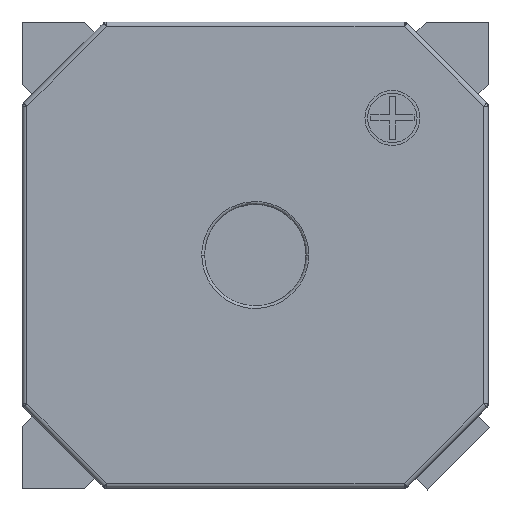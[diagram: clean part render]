
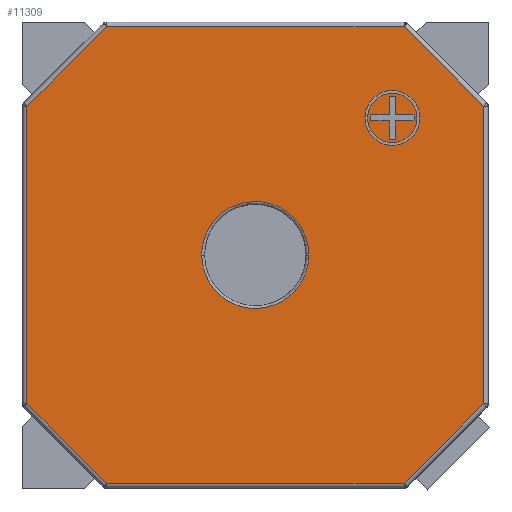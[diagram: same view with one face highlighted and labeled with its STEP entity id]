
A CAD part, top view. The second image highlights one B-rep face of the part: STEP entity #11309.
In plain terms, the highlighted planar face has unit normal (0, 0, 1).
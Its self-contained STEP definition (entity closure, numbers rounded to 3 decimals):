
#471 = ORIENTED_EDGE ( 'NONE', *, *, #8420, .F. ) ;
#494 = CARTESIAN_POINT ( 'NONE',  ( 0., 0., 4.5 ) ) ;
#640 = VECTOR ( 'NONE', #14297, 1000. ) ;
#678 = DIRECTION ( 'NONE',  ( 1., 0., 0. ) ) ;
#820 = VERTEX_POINT ( 'NONE', #12902 ) ;
#869 = DIRECTION ( 'NONE',  ( -0.707, 0.707, 0. ) ) ;
#1334 = VERTEX_POINT ( 'NONE', #3443 ) ;
#1520 = EDGE_CURVE ( 'NONE', #11335, #4686, #10441, .T. ) ;
#1598 = DIRECTION ( 'NONE',  ( 0.707, -0.707, 0. ) ) ;
#1720 = CARTESIAN_POINT ( 'NONE',  ( -4.165, 0., 4.5 ) ) ;
#1735 = DIRECTION ( 'NONE',  ( 0., 1., 0. ) ) ;
#1767 = FACE_BOUND ( 'NONE', #6130, .T. ) ;
#1836 = VERTEX_POINT ( 'NONE', #14082 ) ;
#1863 = ORIENTED_EDGE ( 'NONE', *, *, #8333, .F. ) ;
#2103 = CARTESIAN_POINT ( 'NONE',  ( -0.975, -1.95, 4.5 ) ) ;
#2299 = ORIENTED_EDGE ( 'NONE', *, *, #9404, .F. ) ;
#2309 = LINE ( 'NONE', #1720, #15073 ) ;
#2712 = VECTOR ( 'NONE', #9841, 1000. ) ;
#2816 = ORIENTED_EDGE ( 'NONE', *, *, #9491, .F. ) ;
#3108 = EDGE_CURVE ( 'NONE', #9342, #4923, #13808, .T. ) ;
#3307 = VERTEX_POINT ( 'NONE', #8701 ) ;
#3332 = CARTESIAN_POINT ( 'NONE',  ( 0.975, -1.95, 4.5 ) ) ;
#3443 = CARTESIAN_POINT ( 'NONE',  ( -4.165, -2.715, 4.5 ) ) ;
#3860 = EDGE_CURVE ( 'NONE', #6978, #3307, #14557, .T. ) ;
#4074 = ORIENTED_EDGE ( 'NONE', *, *, #3860, .F. ) ;
#4166 = CARTESIAN_POINT ( 'NONE',  ( 0.975, 0., 4.5 ) ) ;
#4568 = CARTESIAN_POINT ( 'NONE',  ( 0.975, 0.571, 4.5 ) ) ;
#4686 = VERTEX_POINT ( 'NONE', #9417 ) ;
#4694 = CARTESIAN_POINT ( 'NONE',  ( 2.715, 4.165, 4.5 ) ) ;
#4923 = VERTEX_POINT ( 'NONE', #8133 ) ;
#4976 = EDGE_CURVE ( 'NONE', #4923, #1334, #5819, .T. ) ;
#5066 = FACE_OUTER_BOUND ( 'NONE', #8430, .T. ) ;
#5087 = VECTOR ( 'NONE', #1598, 1000. ) ;
#5106 = VERTEX_POINT ( 'NONE', #11108 ) ;
#5789 = CARTESIAN_POINT ( 'NONE',  ( 0.571, 0.975, 4.5 ) ) ;
#5803 = LINE ( 'NONE', #9350, #9071 ) ;
#5817 = CARTESIAN_POINT ( 'NONE',  ( -0.571, 0.975, 4.5 ) ) ;
#5819 = LINE ( 'NONE', #15716, #12002 ) ;
#5912 = DIRECTION ( 'NONE',  ( -0.707, -0.707, 0. ) ) ;
#6130 = EDGE_LOOP ( 'NONE', ( #12722, #471, #2299 ) ) ;
#6418 = ORIENTED_EDGE ( 'NONE', *, *, #3108, .F. ) ;
#6780 = CARTESIAN_POINT ( 'NONE',  ( 0.975, 0., 4.5 ) ) ;
#6978 = VERTEX_POINT ( 'NONE', #4694 ) ;
#6989 = LINE ( 'NONE', #13284, #13552 ) ;
#7047 =( BOUNDED_CURVE ( )  B_SPLINE_CURVE ( 3, ( #10774, #2103, #3332, #12004 ),
 .UNSPECIFIED., .F., .F. ) 
 B_SPLINE_CURVE_WITH_KNOTS ( ( 4, 4 ),
 ( 0.333, 1. ),
 .UNSPECIFIED. ) 
 CURVE ( )  GEOMETRIC_REPRESENTATION_ITEM ( )  RATIONAL_B_SPLINE_CURVE ( ( 1., 0.333, 0.333, 1. ) ) 
 REPRESENTATION_ITEM ( '' )  );
#7974 = CARTESIAN_POINT ( 'NONE',  ( 2.715, -4.165, 4.5 ) ) ;
#8012 = ORIENTED_EDGE ( 'NONE', *, *, #8247, .F. ) ;
#8068 = ORIENTED_EDGE ( 'NONE', *, *, #11618, .F. ) ;
#8133 = CARTESIAN_POINT ( 'NONE',  ( -2.715, -4.165, 4.5 ) ) ;
#8224 = CARTESIAN_POINT ( 'NONE',  ( 0., 0.975, 4.5 ) ) ;
#8237 = VERTEX_POINT ( 'NONE', #9150 ) ;
#8247 = EDGE_CURVE ( 'NONE', #1334, #1836, #2309, .T. ) ;
#8283 = CARTESIAN_POINT ( 'NONE',  ( -0.975, 0., 4.5 ) ) ;
#8333 = EDGE_CURVE ( 'NONE', #8237, #6978, #5803, .T. ) ;
#8420 = EDGE_CURVE ( 'NONE', #820, #11335, #7047, .T. ) ;
#8430 = EDGE_LOOP ( 'NONE', ( #8068, #4074, #1863, #2816, #8012, #12111, #6418, #11646 ) ) ;
#8517 =( BOUNDED_CURVE ( )  B_SPLINE_CURVE ( 3, ( #8224, #5817, #15709, #8283 ),
 .UNSPECIFIED., .F., .F. ) 
 B_SPLINE_CURVE_WITH_KNOTS ( ( 4, 4 ),
 ( 0., 0.333 ),
 .UNSPECIFIED. ) 
 CURVE ( )  GEOMETRIC_REPRESENTATION_ITEM ( )  RATIONAL_B_SPLINE_CURVE ( ( 1., 0.805, 0.805, 1. ) ) 
 REPRESENTATION_ITEM ( '' )  );
#8572 = CARTESIAN_POINT ( 'NONE',  ( 0., 0.975, 4.5 ) ) ;
#8701 = CARTESIAN_POINT ( 'NONE',  ( 4.165, 2.715, 4.5 ) ) ;
#9071 = VECTOR ( 'NONE', #678, 1000. ) ;
#9150 = CARTESIAN_POINT ( 'NONE',  ( -2.715, 4.165, 4.5 ) ) ;
#9155 = DIRECTION ( 'NONE',  ( 0., 0., -1. ) ) ;
#9342 = VERTEX_POINT ( 'NONE', #7974 ) ;
#9350 = CARTESIAN_POINT ( 'NONE',  ( 0., 4.165, 4.5 ) ) ;
#9404 = EDGE_CURVE ( 'NONE', #4686, #820, #8517, .T. ) ;
#9417 = CARTESIAN_POINT ( 'NONE',  ( 0., 0.975, 4.5 ) ) ;
#9491 = EDGE_CURVE ( 'NONE', #1836, #8237, #11945, .T. ) ;
#9841 = DIRECTION ( 'NONE',  ( 0., -1., 0. ) ) ;
#10326 = CARTESIAN_POINT ( 'NONE',  ( 2.715, 4.165, 4.5 ) ) ;
#10356 = PLANE ( 'NONE',  #15149 ) ;
#10441 =( BOUNDED_CURVE ( )  B_SPLINE_CURVE ( 3, ( #4166, #4568, #5789, #8572 ),
 .UNSPECIFIED., .F., .F. ) 
 B_SPLINE_CURVE_WITH_KNOTS ( ( 4, 4 ),
 ( 0., 1. ),
 .UNSPECIFIED. ) 
 CURVE ( )  GEOMETRIC_REPRESENTATION_ITEM ( )  RATIONAL_B_SPLINE_CURVE ( ( 1., 0.805, 0.805, 1. ) ) 
 REPRESENTATION_ITEM ( '' )  );
#10774 = CARTESIAN_POINT ( 'NONE',  ( -0.975, 0., 4.5 ) ) ;
#11108 = CARTESIAN_POINT ( 'NONE',  ( 4.165, -2.715, 4.5 ) ) ;
#11309 = ADVANCED_FACE ( 'NONE', ( #1767, #5066 ), #10356, .F. ) ;
#11335 = VERTEX_POINT ( 'NONE', #6780 ) ;
#11618 = EDGE_CURVE ( 'NONE', #3307, #5106, #12587, .T. ) ;
#11646 = ORIENTED_EDGE ( 'NONE', *, *, #15121, .F. ) ;
#11945 = LINE ( 'NONE', #14970, #14839 ) ;
#12002 = VECTOR ( 'NONE', #869, 1000. ) ;
#12004 = CARTESIAN_POINT ( 'NONE',  ( 0.975, 0., 4.5 ) ) ;
#12111 = ORIENTED_EDGE ( 'NONE', *, *, #4976, .F. ) ;
#12440 = DIRECTION ( 'NONE',  ( 0.707, 0.707, 0. ) ) ;
#12587 = LINE ( 'NONE', #16022, #2712 ) ;
#12722 = ORIENTED_EDGE ( 'NONE', *, *, #1520, .F. ) ;
#12902 = CARTESIAN_POINT ( 'NONE',  ( -0.975, 0., 4.5 ) ) ;
#13284 = CARTESIAN_POINT ( 'NONE',  ( 4.165, -2.715, 4.5 ) ) ;
#13552 = VECTOR ( 'NONE', #5912, 1000. ) ;
#13808 = LINE ( 'NONE', #15549, #640 ) ;
#14082 = CARTESIAN_POINT ( 'NONE',  ( -4.165, 2.715, 4.5 ) ) ;
#14117 = DIRECTION ( 'NONE',  ( 0., 1., 0. ) ) ;
#14297 = DIRECTION ( 'NONE',  ( -1., 0., 0. ) ) ;
#14557 = LINE ( 'NONE', #10326, #5087 ) ;
#14839 = VECTOR ( 'NONE', #12440, 1000. ) ;
#14970 = CARTESIAN_POINT ( 'NONE',  ( -4.165, 2.715, 4.5 ) ) ;
#15073 = VECTOR ( 'NONE', #14117, 1000. ) ;
#15121 = EDGE_CURVE ( 'NONE', #5106, #9342, #6989, .T. ) ;
#15149 = AXIS2_PLACEMENT_3D ( 'NONE', #494, #9155, #1735 ) ;
#15549 = CARTESIAN_POINT ( 'NONE',  ( 0., -4.165, 4.5 ) ) ;
#15709 = CARTESIAN_POINT ( 'NONE',  ( -0.975, 0.571, 4.5 ) ) ;
#15716 = CARTESIAN_POINT ( 'NONE',  ( -2.715, -4.165, 4.5 ) ) ;
#16022 = CARTESIAN_POINT ( 'NONE',  ( 4.165, 0., 4.5 ) ) ;
